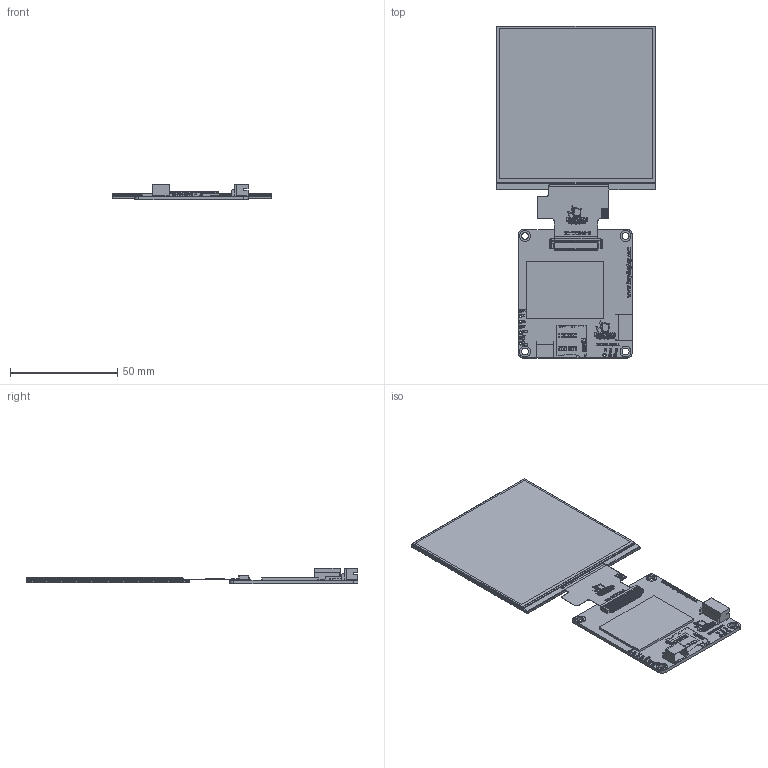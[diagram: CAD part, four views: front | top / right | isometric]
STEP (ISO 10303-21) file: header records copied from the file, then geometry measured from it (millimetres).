
FILE_DESCRIPTION (( 'STEP AP214' ), '1' );
FILE_NAME ('ER-TFT040-3-5982.STEP', '2024-07-12T02:23:52', ( '微软用户' ), ( '微软中国' ), 'SwSTEP 2.0', 'SolidWorks 2023', '' );
FILE_SCHEMA (( 'AUTOMOTIVE_DESIGN' ));
Length unit declared in the file: millimetre
Products named in the file (3): ER-PCBA5982-1; ER-TFT040-3-5982; ER-TFT040-3
Assembly tree (2 placements, depth 2):
  ER-TFT040-3-5982
    ER-PCBA5982-1
    ER-TFT040-3
Bounding box: 74.66 x 155.12 x 7.2 mm (x, y, z)
Volume: 18875.9 mm3; surface area: 35031.6 mm2
Topology: 157 solids, 157 shells, 5484 faces, 15940 edges, 10427 vertices
Faces by surface type: plane 3624, bspline 1200, cylinder 660
Entity records: 269081 total; most frequent: CARTESIAN_POINT 86484, ORIENTED_EDGE 31880, DIRECTION 22810, EDGE_CURVE 15940, VECTOR 11992, LINE 11992, VERTEX_POINT 10427, EDGE_LOOP 5789
